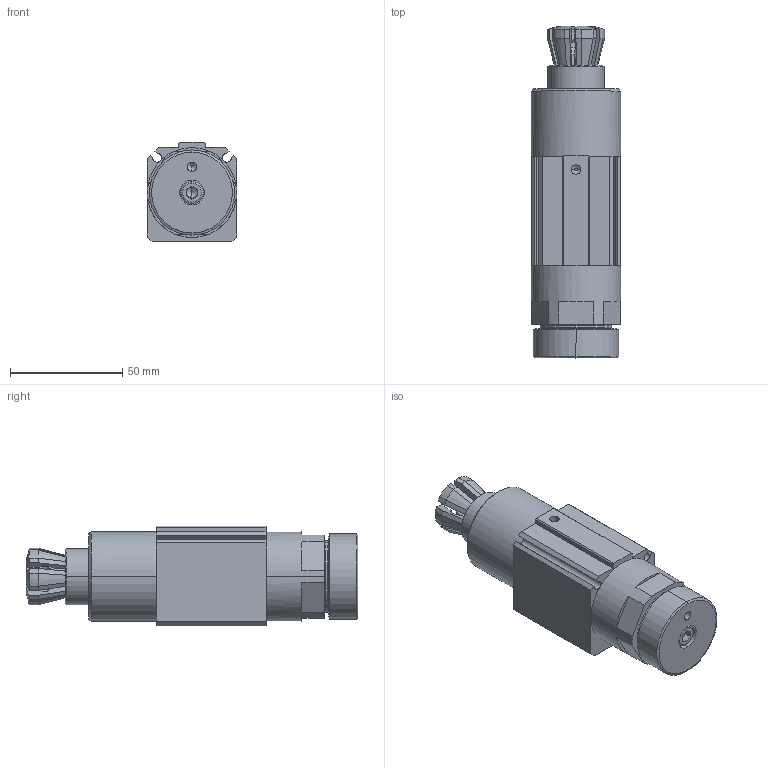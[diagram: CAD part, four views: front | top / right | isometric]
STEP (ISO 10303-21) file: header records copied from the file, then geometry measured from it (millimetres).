
FILE_DESCRIPTION (( 'STEP AP203' ), '1' );
FILE_NAME ('縐諶標撿2.0.STEP', '2025-02-22T00:53:55', ( 'Windows 蚚誧' ), ( 'Organization' ), 'SwSTEP 2.0', 'SolidWorks 2018', '' );
FILE_SCHEMA (( 'CONFIG_CONTROL_DESIGN' ));
Length unit declared in the file: millimetre
Products named in the file (1): 縐諶標撿2.0
Bounding box: 40 x 147.99 x 44.5 mm (x, y, z)
Volume: 151030.8 mm3; surface area: 43425.3 mm2
Topology: 1 solids, 1 shells, 332 faces, 830 edges, 511 vertices
Faces by surface type: plane 124, cylinder 88, cone 81, torus 32, bspline 7
Entity records: 10425 total; most frequent: CARTESIAN_POINT 2684, ORIENTED_EDGE 1636, DIRECTION 1572, EDGE_CURVE 818, AXIS2_PLACEMENT_3D 608, VERTEX_POINT 511, EDGE_LOOP 357, LINE 356
